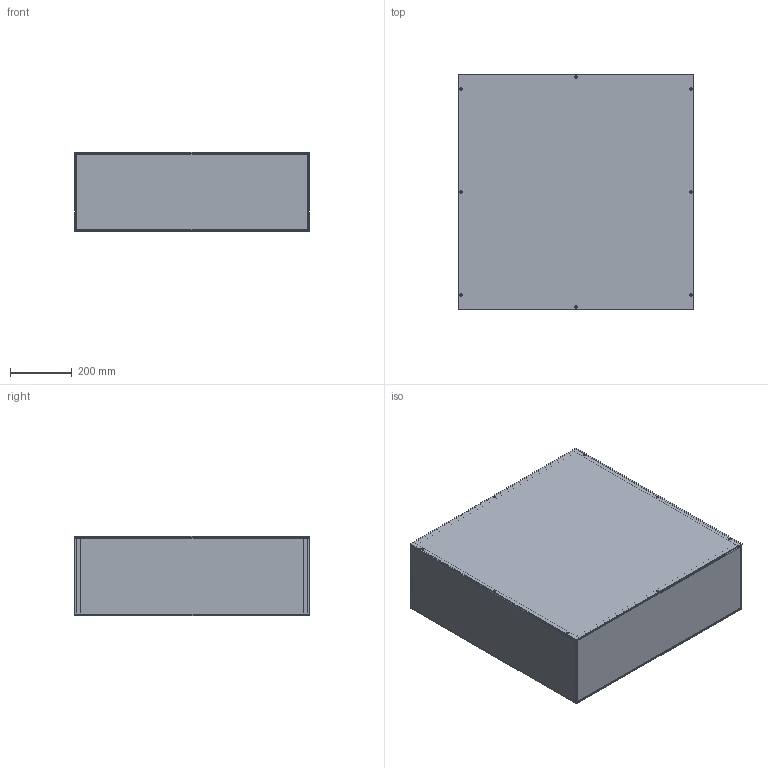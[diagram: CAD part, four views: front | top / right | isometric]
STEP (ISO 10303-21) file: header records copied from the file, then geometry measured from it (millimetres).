
FILE_DESCRIPTION (( 'STEP AP203' ), '1' );
FILE_NAME ('asg30x30x10nk.STEP', '2011-02-14T19:57:57', ( 'Hoffman User' ), ( 'Hoffman Enclosures' ), 'SwSTEP 2.0', 'SolidWorks 2009', '' );
FILE_SCHEMA (( 'CONFIG_CONTROL_DESIGN' ));
Length unit declared in the file: inch
Products named in the file (5): 87757967; 89054653_WELDMENT; 87757964; 42215051; asg30x30x10nk
Assembly tree (5 placements, depth 3):
  asg30x30x10nk
    42215051
    89054653_WELDMENT
      87757964
      87757967  x2
Bounding box: 762 x 762 x 256.46 mm (x, y, z)
Volume: 4917514.2 mm3; surface area: 4021190.8 mm2
Topology: 4 solids, 4 shells, 189 faces, 434 edges, 256 vertices
Faces by surface type: plane 99, cylinder 68, torus 10, bspline 8, cone 4
Entity records: 5237 total; most frequent: CARTESIAN_POINT 1218, DIRECTION 770, ORIENTED_EDGE 676, EDGE_CURVE 338, AXIS2_PLACEMENT_3D 290, VERTEX_POINT 202, VECTOR 190, LINE 190
